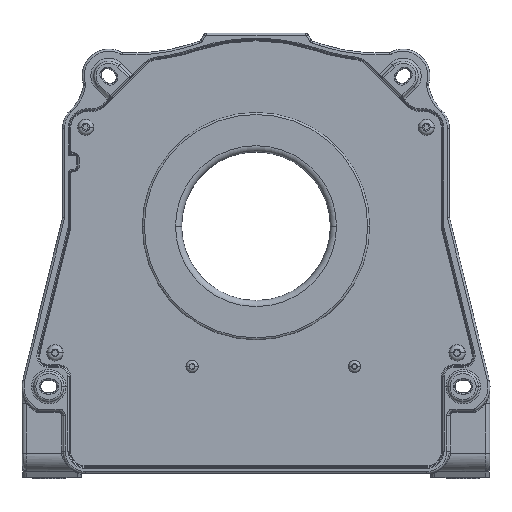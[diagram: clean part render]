
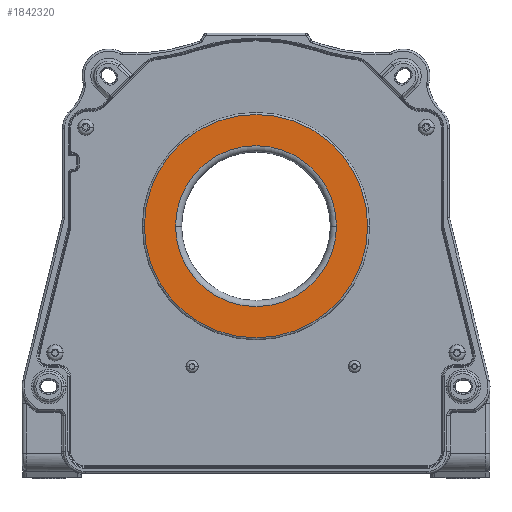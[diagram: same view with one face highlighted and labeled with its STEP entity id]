
A CAD part, top view. The second image highlights one B-rep face of the part: STEP entity #1842320.
In plain terms, the highlighted planar face has unit normal (0, 0, 1).
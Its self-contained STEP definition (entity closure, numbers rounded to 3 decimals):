
#1832350=CARTESIAN_POINT('',(255.223,-392.343,
-381.796));
#1832360=DIRECTION('',(0.,0.,1.));
#1832370=DIRECTION('',(1.,0.,-0.));
#1832380=AXIS2_PLACEMENT_3D('',#1832350,#1832360,#1832370);
#1832390=CIRCLE('',#1832380,55.);
#1832400=CARTESIAN_POINT('',(255.223,-337.343,
-381.796));
#1832410=VERTEX_POINT('',#1832400);
#1832420=CARTESIAN_POINT('',(200.223,-392.343,
-381.796));
#1832430=VERTEX_POINT('',#1832420);
#1832440=EDGE_CURVE('',#1832410,#1832430,#1832390,.T.);
#1832730=CARTESIAN_POINT('',(310.223,-392.343,
-381.796));
#1832740=VERTEX_POINT('',#1832730);
#1832770=EDGE_CURVE('',#1832740,#1832410,#1832390,.T.);
#1842060=CARTESIAN_POINT('',(211.441,-419.078,
-381.796));
#1842070=DIRECTION('',(0.,0.,1.));
#1842080=DIRECTION('',(1.,0.,0.));
#1842090=AXIS2_PLACEMENT_3D('',#1842060,#1842070,#1842080);
#1842100=PLANE('',#1842090);
#1842110=CARTESIAN_POINT('',(255.223,-392.343,
-381.796));
#1842120=DIRECTION('',(0.,-0.,1.));
#1842130=DIRECTION('',(1.,0.,-0.));
#1842140=AXIS2_PLACEMENT_3D('',#1842110,#1842120,#1842130);
#1842150=CIRCLE('',#1842140,39.635);
#1842160=CARTESIAN_POINT('',(294.858,-392.343,
-381.796));
#1842170=VERTEX_POINT('',#1842160);
#1842180=CARTESIAN_POINT('',(215.589,-392.343,
-381.796));
#1842190=VERTEX_POINT('',#1842180);
#1842200=EDGE_CURVE('',#1842170,#1842190,#1842150,.T.);
#1842210=ORIENTED_EDGE('',*,*,#1842200,.F.);
#1842220=EDGE_CURVE('',#1842190,#1842170,#1842150,.T.);
#1842230=ORIENTED_EDGE('',*,*,#1842220,.F.);
#1842240=EDGE_LOOP('',(#1842230,#1842210));
#1842250=FACE_BOUND('',#1842240,.T.);
#1842260=EDGE_CURVE('',#1832430,#1832740,#1832390,.T.);
#1842270=ORIENTED_EDGE('',*,*,#1842260,.T.);
#1842280=ORIENTED_EDGE('',*,*,#1832440,.T.);
#1842290=ORIENTED_EDGE('',*,*,#1832770,.T.);
#1842300=EDGE_LOOP('',(#1842290,#1842280,#1842270));
#1842310=FACE_OUTER_BOUND('',#1842300,.T.);
#1842320=ADVANCED_FACE('',(#1842250,#1842310),#1842100,.T.);
